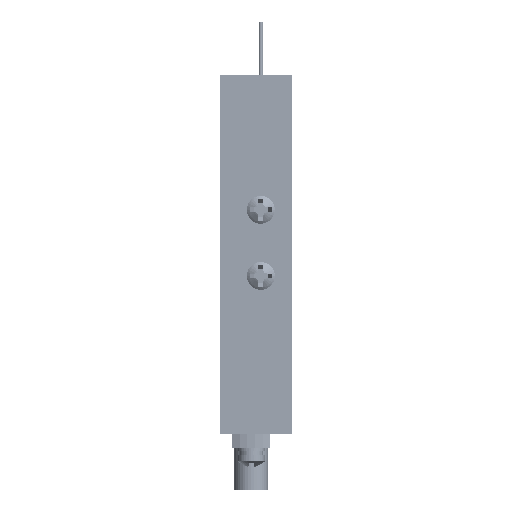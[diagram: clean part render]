
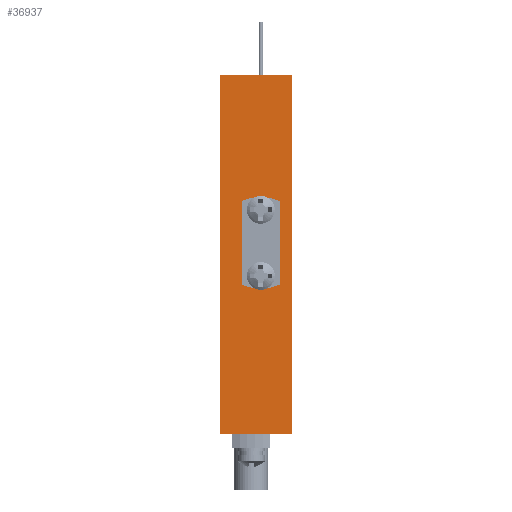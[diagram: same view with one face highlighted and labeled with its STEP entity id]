
A CAD part, left-side view. The second image highlights one B-rep face of the part: STEP entity #36937.
In plain terms, the highlighted planar face has unit normal (-1, 0, 0).
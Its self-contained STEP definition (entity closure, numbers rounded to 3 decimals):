
#98 = EDGE_CURVE ( 'NONE', #20387, #15400, #31869, .T. ) ;
#229 = EDGE_CURVE ( 'NONE', #24488, #15121, #15648, .T. ) ;
#576 = CARTESIAN_POINT ( 'NONE',  ( 0., 3.9, -25.95 ) ) ;
#1186 = LINE ( 'NONE', #29485, #30696 ) ;
#1747 = ORIENTED_EDGE ( 'NONE', *, *, #27615, .F. ) ;
#1817 = VERTEX_POINT ( 'NONE', #37473 ) ;
#2187 = ORIENTED_EDGE ( 'NONE', *, *, #13586, .T. ) ;
#2679 = LINE ( 'NONE', #21402, #31647 ) ;
#2721 = EDGE_CURVE ( 'NONE', #15400, #20387, #24567, .T. ) ;
#3385 = EDGE_LOOP ( 'NONE', ( #34092, #13723 ) ) ;
#3800 = CARTESIAN_POINT ( 'NONE',  ( 0., 3.9, -25.15 ) ) ;
#4513 = LINE ( 'NONE', #29352, #34064 ) ;
#5032 = ORIENTED_EDGE ( 'NONE', *, *, #2721, .F. ) ;
#5396 = CARTESIAN_POINT ( 'NONE',  ( 0., 9., 0. ) ) ;
#6130 = VERTEX_POINT ( 'NONE', #29478 ) ;
#6668 = CARTESIAN_POINT ( 'NONE',  ( 0., 3.9, -16.85 ) ) ;
#7398 = AXIS2_PLACEMENT_3D ( 'NONE', #5396, #24710, #37087 ) ;
#7979 = CIRCLE ( 'NONE', #13182, 0.8 ) ;
#8266 = CARTESIAN_POINT ( 'NONE',  ( 0., 0., -45. ) ) ;
#9063 = CARTESIAN_POINT ( 'NONE',  ( 0., 3.9, -16.05 ) ) ;
#10373 = EDGE_LOOP ( 'NONE', ( #30401, #1747, #34858, #2187 ) ) ;
#10631 = VERTEX_POINT ( 'NONE', #36076 ) ;
#12175 = CARTESIAN_POINT ( 'NONE',  ( 0., 9., -45. ) ) ;
#12360 = CARTESIAN_POINT ( 'NONE',  ( 0., 3.9, -24.35 ) ) ;
#12377 = DIRECTION ( 'NONE',  ( 0., -1., 0. ) ) ;
#12599 = DIRECTION ( 'NONE',  ( -1., 0., 0. ) ) ;
#13182 = AXIS2_PLACEMENT_3D ( 'NONE', #32784, #14075, #29554 ) ;
#13586 = EDGE_CURVE ( 'NONE', #10631, #31294, #20004, .T. ) ;
#13608 = DIRECTION ( 'NONE',  ( 0., 0., 1. ) ) ;
#13723 = ORIENTED_EDGE ( 'NONE', *, *, #31998, .F. ) ;
#14075 = DIRECTION ( 'NONE',  ( -1., 0., 0. ) ) ;
#14965 = FACE_BOUND ( 'NONE', #3385, .T. ) ;
#15121 = VERTEX_POINT ( 'NONE', #25265 ) ;
#15400 = VERTEX_POINT ( 'NONE', #576 ) ;
#15479 = AXIS2_PLACEMENT_3D ( 'NONE', #3800, #22126, #15822 ) ;
#15648 = CIRCLE ( 'NONE', #20184, 0.8 ) ;
#15822 = DIRECTION ( 'NONE',  ( 0., 0., 1. ) ) ;
#16492 = ORIENTED_EDGE ( 'NONE', *, *, #98, .F. ) ;
#20004 = LINE ( 'NONE', #12175, #20985 ) ;
#20184 = AXIS2_PLACEMENT_3D ( 'NONE', #6668, #12599, #31686 ) ;
#20387 = VERTEX_POINT ( 'NONE', #12360 ) ;
#20985 = VECTOR ( 'NONE', #12377, 1000. ) ;
#21402 = CARTESIAN_POINT ( 'NONE',  ( 0., 9., 0. ) ) ;
#22126 = DIRECTION ( 'NONE',  ( -1., 0., 0. ) ) ;
#23916 = PLANE ( 'NONE',  #7398 ) ;
#23976 = DIRECTION ( 'NONE',  ( -1., 0., 0. ) ) ;
#24488 = VERTEX_POINT ( 'NONE', #9063 ) ;
#24567 = CIRCLE ( 'NONE', #15479, 0.8 ) ;
#24710 = DIRECTION ( 'NONE',  ( 1., 0., 0. ) ) ;
#25260 = EDGE_CURVE ( 'NONE', #10631, #1817, #2679, .T. ) ;
#25265 = CARTESIAN_POINT ( 'NONE',  ( 0., 3.9, -17.65 ) ) ;
#27032 = CARTESIAN_POINT ( 'NONE',  ( 0., 3.9, -25.15 ) ) ;
#27171 = FACE_BOUND ( 'NONE', #31424, .T. ) ;
#27615 = EDGE_CURVE ( 'NONE', #1817, #6130, #4513, .T. ) ;
#29352 = CARTESIAN_POINT ( 'NONE',  ( 0., 9., 0. ) ) ;
#29478 = CARTESIAN_POINT ( 'NONE',  ( 0., 0., 0. ) ) ;
#29485 = CARTESIAN_POINT ( 'NONE',  ( 0., 0., 0. ) ) ;
#29554 = DIRECTION ( 'NONE',  ( 0., 0., 1. ) ) ;
#30154 = DIRECTION ( 'NONE',  ( 0., 0., 1. ) ) ;
#30401 = ORIENTED_EDGE ( 'NONE', *, *, #35615, .T. ) ;
#30696 = VECTOR ( 'NONE', #13608, 1000. ) ;
#31294 = VERTEX_POINT ( 'NONE', #8266 ) ;
#31424 = EDGE_LOOP ( 'NONE', ( #16492, #5032 ) ) ;
#31647 = VECTOR ( 'NONE', #30154, 1000. ) ;
#31686 = DIRECTION ( 'NONE',  ( 0., 0., 1. ) ) ;
#31869 = CIRCLE ( 'NONE', #32545, 0.8 ) ;
#31998 = EDGE_CURVE ( 'NONE', #15121, #24488, #7979, .T. ) ;
#32545 = AXIS2_PLACEMENT_3D ( 'NONE', #27032, #23976, #33527 ) ;
#32784 = CARTESIAN_POINT ( 'NONE',  ( 0., 3.9, -16.85 ) ) ;
#33527 = DIRECTION ( 'NONE',  ( 0., 0., 1. ) ) ;
#34064 = VECTOR ( 'NONE', #38672, 1000. ) ;
#34092 = ORIENTED_EDGE ( 'NONE', *, *, #229, .F. ) ;
#34858 = ORIENTED_EDGE ( 'NONE', *, *, #25260, .F. ) ;
#35615 = EDGE_CURVE ( 'NONE', #31294, #6130, #1186, .T. ) ;
#36076 = CARTESIAN_POINT ( 'NONE',  ( 0., 9., -45. ) ) ;
#36937 = ADVANCED_FACE ( 'NONE', ( #27171, #14965, #39958 ), #23916, .F. ) ;
#37087 = DIRECTION ( 'NONE',  ( 0., 0., -1. ) ) ;
#37473 = CARTESIAN_POINT ( 'NONE',  ( 0., 9., 0. ) ) ;
#38672 = DIRECTION ( 'NONE',  ( 0., -1., 0. ) ) ;
#39958 = FACE_OUTER_BOUND ( 'NONE', #10373, .T. ) ;
